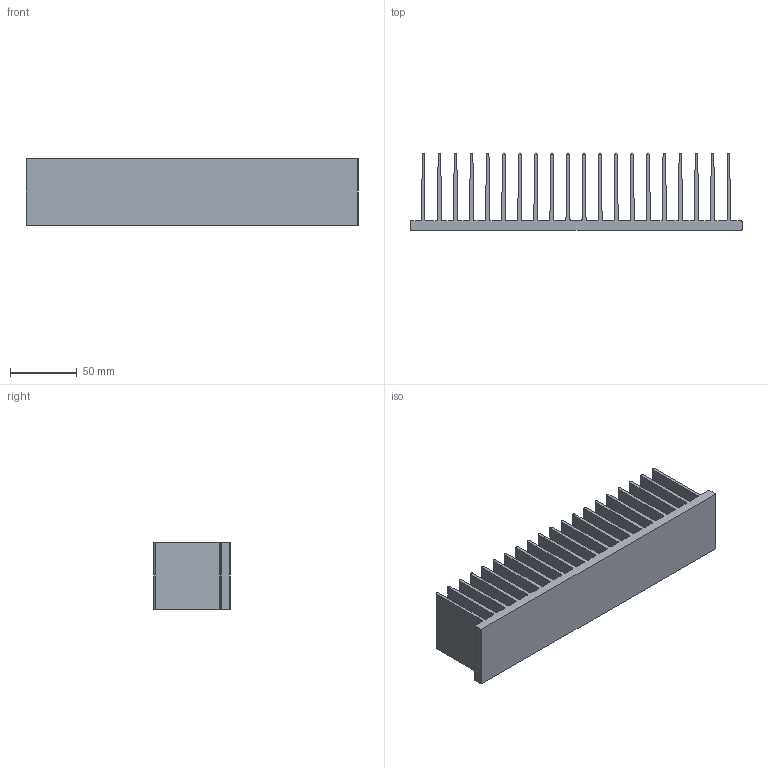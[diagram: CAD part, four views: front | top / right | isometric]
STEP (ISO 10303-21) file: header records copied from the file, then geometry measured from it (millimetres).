
FILE_DESCRIPTION (( 'STEP AP203' ), '1' );
FILE_NAME ('PR 189-50.step', '2002-10-21T08:19:08', ( 'Wolfgang Müller' ), ( 'DPS' ), 'SwSTEP 2.0', 'SolidWorks 2002264', '' );
FILE_SCHEMA (( 'CONFIG_CONTROL_DESIGN' ));
Length unit declared in the file: millimetre
Products named in the file (1): PR 189-50
Bounding box: 248 x 57 x 50 mm (x, y, z)
Volume: 209322.3 mm3; surface area: 131216.4 mm2
Topology: 1 solids, 1 shells, 130 faces, 384 edges, 256 vertices
Faces by surface type: plane 66, cylinder 64
Entity records: 4453 total; most frequent: DIRECTION 774, CARTESIAN_POINT 771, ORIENTED_EDGE 768, EDGE_CURVE 384, AXIS2_PLACEMENT_3D 259, VERTEX_POINT 256, LINE 256, VECTOR 256
